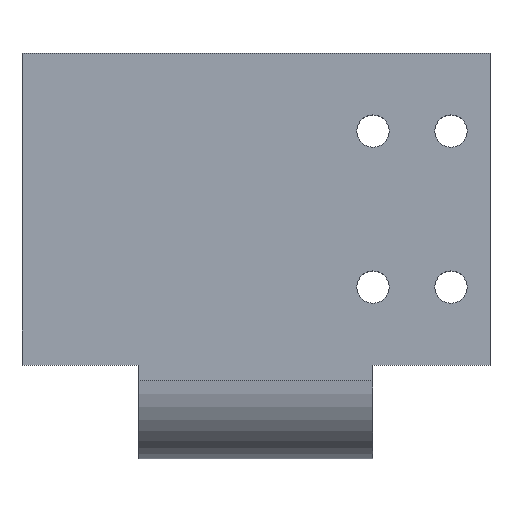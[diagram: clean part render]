
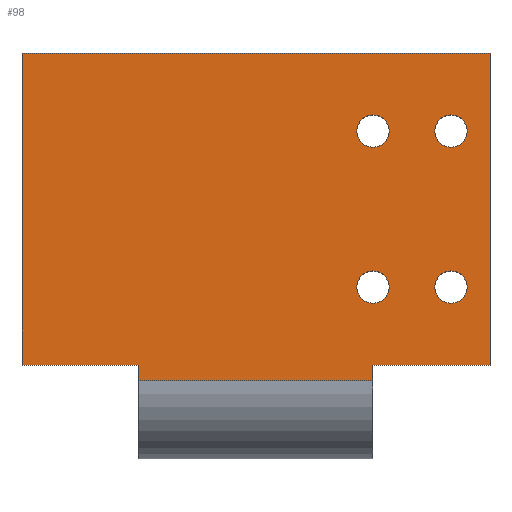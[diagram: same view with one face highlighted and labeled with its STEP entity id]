
A CAD part, top view. The second image highlights one B-rep face of the part: STEP entity #98.
In plain terms, the highlighted planar face has unit normal (0, 0, 1).
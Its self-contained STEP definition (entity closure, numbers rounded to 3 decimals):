
#11 = DIRECTION ( 'NONE',  ( 0., 0., 1. ) ) ;
#12 = CARTESIAN_POINT ( 'NONE',  ( 0., 20., 0. ) ) ;
#32 = CARTESIAN_POINT ( 'NONE',  ( 0., -20., 0. ) ) ;
#35 = CARTESIAN_POINT ( 'NONE',  ( 55., 10., 0. ) ) ;
#42 = VERTEX_POINT ( 'NONE', #1126 ) ;
#48 = EDGE_CURVE ( 'NONE', #1649, #764, #1470, .T. ) ;
#57 = CARTESIAN_POINT ( 'NONE',  ( 55., -10., 0. ) ) ;
#58 = AXIS2_PLACEMENT_3D ( 'NONE', #35, #1261, #298 ) ;
#94 = DIRECTION ( 'NONE',  ( 0., 0., 1. ) ) ;
#98 = ADVANCED_FACE ( 'NONE', ( #1157, #1612, #141, #594, #1531 ), #460, .F. ) ;
#129 = CARTESIAN_POINT ( 'NONE',  ( 45., -10., 0. ) ) ;
#138 = LINE ( 'NONE', #348, #1234 ) ;
#141 = FACE_BOUND ( 'NONE', #148, .T. ) ;
#148 = EDGE_LOOP ( 'NONE', ( #1176, #973 ) ) ;
#150 = ORIENTED_EDGE ( 'NONE', *, *, #643, .F. ) ;
#155 = LINE ( 'NONE', #1173, #1415 ) ;
#167 = VERTEX_POINT ( 'NONE', #862 ) ;
#171 = LINE ( 'NONE', #320, #1117 ) ;
#185 = EDGE_LOOP ( 'NONE', ( #999, #150 ) ) ;
#196 = CARTESIAN_POINT ( 'NONE',  ( 0., 20., 0. ) ) ;
#229 = ORIENTED_EDGE ( 'NONE', *, *, #1666, .F. ) ;
#247 = CARTESIAN_POINT ( 'NONE',  ( 60., -20., 0. ) ) ;
#259 = ORIENTED_EDGE ( 'NONE', *, *, #1239, .F. ) ;
#271 = AXIS2_PLACEMENT_3D ( 'NONE', #129, #1410, #1685 ) ;
#284 = DIRECTION ( 'NONE',  ( 0., 0., 1. ) ) ;
#293 = CARTESIAN_POINT ( 'NONE',  ( 45., 10., 0. ) ) ;
#295 = LINE ( 'NONE', #196, #1717 ) ;
#296 = CARTESIAN_POINT ( 'NONE',  ( 15., -32., 0. ) ) ;
#298 = DIRECTION ( 'NONE',  ( 1., 0., 0. ) ) ;
#320 = CARTESIAN_POINT ( 'NONE',  ( 45., -22., 0. ) ) ;
#326 = CIRCLE ( 'NONE', #353, 2.067 ) ;
#334 = CARTESIAN_POINT ( 'NONE',  ( 45., -22., 0. ) ) ;
#348 = CARTESIAN_POINT ( 'NONE',  ( 45., 20., 0. ) ) ;
#353 = AXIS2_PLACEMENT_3D ( 'NONE', #839, #284, #659 ) ;
#360 = ORIENTED_EDGE ( 'NONE', *, *, #833, .F. ) ;
#375 = VECTOR ( 'NONE', #927, 1000. ) ;
#384 = ORIENTED_EDGE ( 'NONE', *, *, #1062, .F. ) ;
#387 = EDGE_LOOP ( 'NONE', ( #505, #384 ) ) ;
#395 = DIRECTION ( 'NONE',  ( 0., -1., 0. ) ) ;
#396 = CARTESIAN_POINT ( 'NONE',  ( 0., -20., 0. ) ) ;
#404 = EDGE_CURVE ( 'NONE', #1027, #764, #524, .T. ) ;
#426 = CARTESIAN_POINT ( 'NONE',  ( 60., -20., 0. ) ) ;
#435 = DIRECTION ( 'NONE',  ( 1., 0., 0. ) ) ;
#460 = PLANE ( 'NONE',  #515 ) ;
#480 = ORIENTED_EDGE ( 'NONE', *, *, #533, .F. ) ;
#490 = DIRECTION ( 'NONE',  ( 1., 0., 0. ) ) ;
#494 = CARTESIAN_POINT ( 'NONE',  ( 55., -10., 0. ) ) ;
#505 = ORIENTED_EDGE ( 'NONE', *, *, #1020, .F. ) ;
#515 = AXIS2_PLACEMENT_3D ( 'NONE', #1696, #604, #1568 ) ;
#524 = LINE ( 'NONE', #396, #1722 ) ;
#533 = EDGE_CURVE ( 'NONE', #42, #1402, #138, .T. ) ;
#539 = EDGE_LOOP ( 'NONE', ( #837, #1712, #480, #1258, #229, #1391, #703, #1288 ) ) ;
#578 = DIRECTION ( 'NONE',  ( 1., 0., 0. ) ) ;
#583 = DIRECTION ( 'NONE',  ( 1., 0., 0. ) ) ;
#594 = FACE_BOUND ( 'NONE', #185, .T. ) ;
#604 = DIRECTION ( 'NONE',  ( 0., 0., -1. ) ) ;
#615 = LINE ( 'NONE', #1115, #375 ) ;
#628 = DIRECTION ( 'NONE',  ( 0., 0., 1. ) ) ;
#643 = EDGE_CURVE ( 'NONE', #167, #693, #1266, .T. ) ;
#652 = CARTESIAN_POINT ( 'NONE',  ( 47.067, 10., 0. ) ) ;
#659 = DIRECTION ( 'NONE',  ( 1., 0., 0. ) ) ;
#688 = CARTESIAN_POINT ( 'NONE',  ( 55., 10., 0. ) ) ;
#693 = VERTEX_POINT ( 'NONE', #1222 ) ;
#698 = CARTESIAN_POINT ( 'NONE',  ( 52.933, -10., 0. ) ) ;
#702 = CIRCLE ( 'NONE', #1573, 2.067 ) ;
#703 = ORIENTED_EDGE ( 'NONE', *, *, #824, .F. ) ;
#731 = DIRECTION ( 'NONE',  ( 1., 0., 0. ) ) ;
#740 = DIRECTION ( 'NONE',  ( 0., 1., 0. ) ) ;
#764 = VERTEX_POINT ( 'NONE', #1603 ) ;
#789 = CARTESIAN_POINT ( 'NONE',  ( 60., 20., 0. ) ) ;
#816 = VERTEX_POINT ( 'NONE', #1081 ) ;
#820 = VERTEX_POINT ( 'NONE', #789 ) ;
#824 = EDGE_CURVE ( 'NONE', #1027, #1588, #295, .T. ) ;
#833 = EDGE_CURVE ( 'NONE', #1244, #1594, #1146, .T. ) ;
#837 = ORIENTED_EDGE ( 'NONE', *, *, #48, .F. ) ;
#839 = CARTESIAN_POINT ( 'NONE',  ( 45., -10., 0. ) ) ;
#843 = DIRECTION ( 'NONE',  ( 0., 0., 1. ) ) ;
#862 = CARTESIAN_POINT ( 'NONE',  ( 42.933, -10., 0. ) ) ;
#873 = VECTOR ( 'NONE', #395, 1000. ) ;
#927 = DIRECTION ( 'NONE',  ( -1., 0., 0. ) ) ;
#934 = CARTESIAN_POINT ( 'NONE',  ( 57.067, -10., 0. ) ) ;
#941 = CIRCLE ( 'NONE', #1262, 2.067 ) ;
#942 = CIRCLE ( 'NONE', #984, 2.067 ) ;
#967 = DIRECTION ( 'NONE',  ( 1., 0., 0. ) ) ;
#973 = ORIENTED_EDGE ( 'NONE', *, *, #1453, .F. ) ;
#984 = AXIS2_PLACEMENT_3D ( 'NONE', #1590, #628, #583 ) ;
#994 = LINE ( 'NONE', #426, #873 ) ;
#999 = ORIENTED_EDGE ( 'NONE', *, *, #1574, .F. ) ;
#1020 = EDGE_CURVE ( 'NONE', #1705, #1598, #1185, .T. ) ;
#1027 = VERTEX_POINT ( 'NONE', #32 ) ;
#1062 = EDGE_CURVE ( 'NONE', #1598, #1705, #1462, .T. ) ;
#1069 = AXIS2_PLACEMENT_3D ( 'NONE', #57, #843, #578 ) ;
#1081 = CARTESIAN_POINT ( 'NONE',  ( 42.933, 10., 0. ) ) ;
#1088 = VERTEX_POINT ( 'NONE', #247 ) ;
#1099 = VERTEX_POINT ( 'NONE', #652 ) ;
#1115 = CARTESIAN_POINT ( 'NONE',  ( 60., -20., 0. ) ) ;
#1117 = VECTOR ( 'NONE', #1476, 1000. ) ;
#1126 = CARTESIAN_POINT ( 'NONE',  ( 45., -20., 0. ) ) ;
#1129 = VECTOR ( 'NONE', #740, 1000. ) ;
#1146 = CIRCLE ( 'NONE', #58, 2.067 ) ;
#1157 = FACE_BOUND ( 'NONE', #1644, .T. ) ;
#1173 = CARTESIAN_POINT ( 'NONE',  ( 15., 20., 0. ) ) ;
#1176 = ORIENTED_EDGE ( 'NONE', *, *, #1490, .F. ) ;
#1184 = CARTESIAN_POINT ( 'NONE',  ( 52.933, 10., 0. ) ) ;
#1185 = CIRCLE ( 'NONE', #1069, 2.067 ) ;
#1203 = EDGE_CURVE ( 'NONE', #1649, #1402, #171, .T. ) ;
#1222 = CARTESIAN_POINT ( 'NONE',  ( 47.067, -10., 0. ) ) ;
#1234 = VECTOR ( 'NONE', #1429, 1000. ) ;
#1239 = EDGE_CURVE ( 'NONE', #1594, #1244, #702, .T. ) ;
#1244 = VERTEX_POINT ( 'NONE', #1184 ) ;
#1250 = AXIS2_PLACEMENT_3D ( 'NONE', #494, #94, #435 ) ;
#1258 = ORIENTED_EDGE ( 'NONE', *, *, #1554, .F. ) ;
#1261 = DIRECTION ( 'NONE',  ( 0., 0., 1. ) ) ;
#1262 = AXIS2_PLACEMENT_3D ( 'NONE', #293, #1308, #490 ) ;
#1266 = CIRCLE ( 'NONE', #271, 2.067 ) ;
#1288 = ORIENTED_EDGE ( 'NONE', *, *, #404, .T. ) ;
#1308 = DIRECTION ( 'NONE',  ( 0., 0., 1. ) ) ;
#1331 = DIRECTION ( 'NONE',  ( 1., 0., 0. ) ) ;
#1342 = DIRECTION ( 'NONE',  ( 0., 1., 0. ) ) ;
#1379 = EDGE_CURVE ( 'NONE', #1588, #820, #155, .T. ) ;
#1391 = ORIENTED_EDGE ( 'NONE', *, *, #1379, .F. ) ;
#1402 = VERTEX_POINT ( 'NONE', #334 ) ;
#1410 = DIRECTION ( 'NONE',  ( 0., 0., 1. ) ) ;
#1415 = VECTOR ( 'NONE', #1331, 1000. ) ;
#1429 = DIRECTION ( 'NONE',  ( 0., -1., 0. ) ) ;
#1453 = EDGE_CURVE ( 'NONE', #816, #1099, #942, .T. ) ;
#1462 = CIRCLE ( 'NONE', #1250, 2.067 ) ;
#1470 = LINE ( 'NONE', #296, #1129 ) ;
#1476 = DIRECTION ( 'NONE',  ( 1., 0., 0. ) ) ;
#1490 = EDGE_CURVE ( 'NONE', #1099, #816, #941, .T. ) ;
#1500 = CARTESIAN_POINT ( 'NONE',  ( 15., -22., 0. ) ) ;
#1531 = FACE_OUTER_BOUND ( 'NONE', #539, .T. ) ;
#1554 = EDGE_CURVE ( 'NONE', #1088, #42, #615, .T. ) ;
#1568 = DIRECTION ( 'NONE',  ( -1., 0., 0. ) ) ;
#1573 = AXIS2_PLACEMENT_3D ( 'NONE', #688, #11, #967 ) ;
#1574 = EDGE_CURVE ( 'NONE', #693, #167, #326, .T. ) ;
#1588 = VERTEX_POINT ( 'NONE', #12 ) ;
#1590 = CARTESIAN_POINT ( 'NONE',  ( 45., 10., 0. ) ) ;
#1594 = VERTEX_POINT ( 'NONE', #1787 ) ;
#1598 = VERTEX_POINT ( 'NONE', #698 ) ;
#1603 = CARTESIAN_POINT ( 'NONE',  ( 15., -20., 0. ) ) ;
#1612 = FACE_BOUND ( 'NONE', #387, .T. ) ;
#1644 = EDGE_LOOP ( 'NONE', ( #259, #360 ) ) ;
#1649 = VERTEX_POINT ( 'NONE', #1500 ) ;
#1666 = EDGE_CURVE ( 'NONE', #820, #1088, #994, .T. ) ;
#1685 = DIRECTION ( 'NONE',  ( 1., 0., 0. ) ) ;
#1696 = CARTESIAN_POINT ( 'NONE',  ( 0., 0., 0. ) ) ;
#1705 = VERTEX_POINT ( 'NONE', #934 ) ;
#1712 = ORIENTED_EDGE ( 'NONE', *, *, #1203, .T. ) ;
#1717 = VECTOR ( 'NONE', #1342, 1000. ) ;
#1722 = VECTOR ( 'NONE', #731, 1000. ) ;
#1787 = CARTESIAN_POINT ( 'NONE',  ( 57.067, 10., 0. ) ) ;
